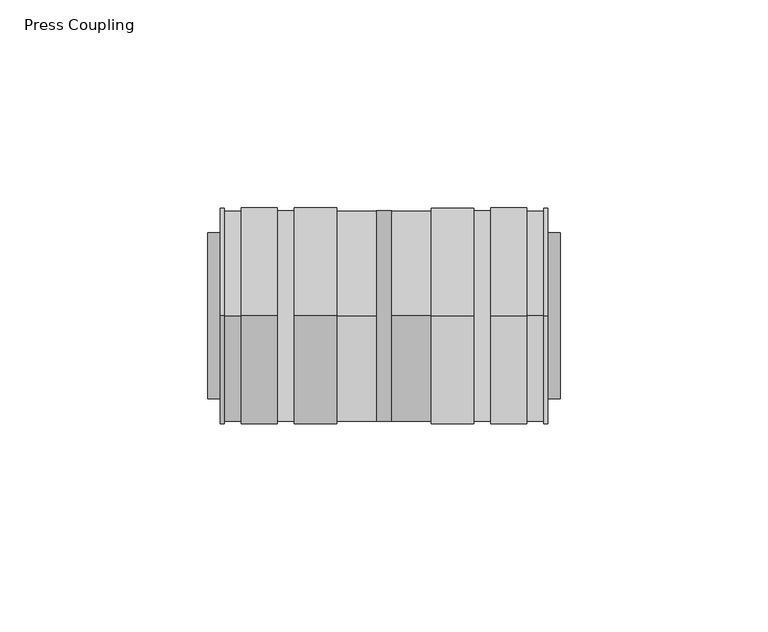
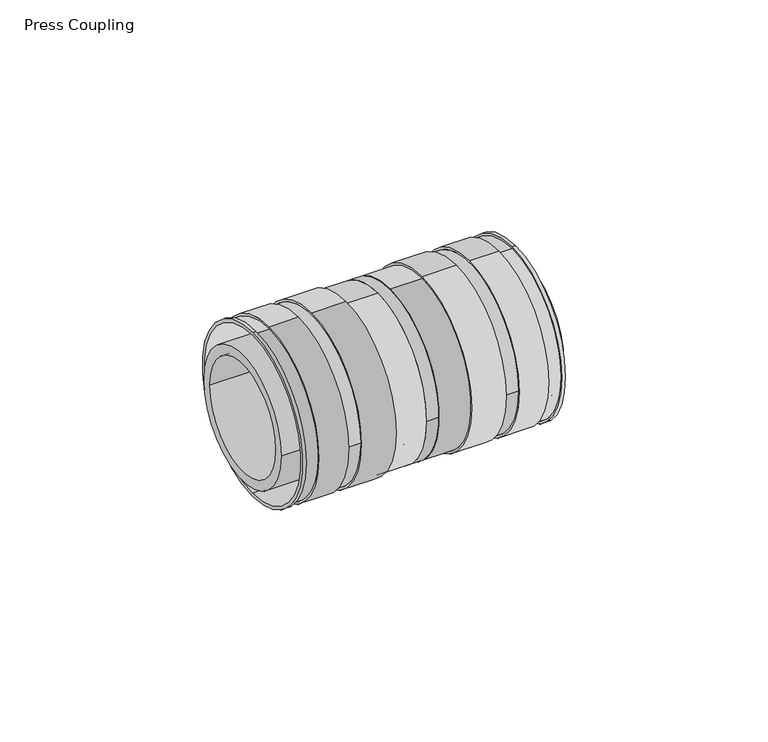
"""IFC4 building model written with IfcOpenShell, lengths in millimetres: pipe fitting geometry, Press Coupling : Superpipe Press Coupling."""

from ifc_helpers import new_model, si_unit, point, frame, frame_2d, origin, place, context, project, spatial, polyline, circle_curve, trimmed, segment, composite_curve, outline, extrude, source, transform, mapped, element, save
from ifc_brep_helpers import plane_surface, cylinder_surface, revolved_surface, advanced_brep


def press_coupling_7d98de0b(model_context):
    return source(origin(), model_context, "Body", "SolidModel", [
        advanced_brep(
        [(81.8, 0.0, -26.0), (81.8, 0.0, 26.0), (81.8, 0.0, -25.0), (81.8, 0.0, 25.0), (44.3, 0.0, -25.3), (44.3, 0.0, 25.3), (44.3, 0.0, -25.0), (44.3, 0.0, 25.0), (80.8, 0.0, -26.0), (80.8, 0.0, 26.0), (76.8, 0.0, 26.0), (76.8, 0.0, -26.0), (68.05, 0.0, -26.0), (68.05, 26.0, 0.0), (68.05, 0.0, 26.0), (64.05, 26.0, 0.0), (64.05, 0.0, -26.0), (53.8, 0.0, -26.0), (53.8, 0.0, 26.0), (64.05, 0.0, 26.0), (68.05, -26.0, 0.0), (64.05, -26.0, 0.0), (76.8, 0.0, 25.3), (76.8, 0.0, -25.3), (80.8, 0.0, 25.3), (80.8, 0.0, -25.3), (68.05, 25.3, 0.0), (68.05, -25.3, 0.0), (64.05, 25.3, 0.0), (64.05, -25.3, 0.0), (53.8, 0.0, -25.3), (53.8, 0.0, 25.3)],
        [
            (0, 1, circle_curve(frame((81.8, 0.0, 0.0), z_axis=(1.0, 0.0, 0.0), x_axis=(0.0, 0.0, 1.0)), 26.0)),
            (1, 0, circle_curve(frame((81.8, 0.0, 0.0), z_axis=(1.0, 0.0, 0.0), x_axis=(0.0, 0.0, 1.0)), 26.0)),
            (2, 3, circle_curve(frame((81.8, 0.0, 0.0), z_axis=(-1.0, 0.0, 0.0), x_axis=(0.0, 0.0, 1.0)), 25.0)),
            (3, 2, circle_curve(frame((81.8, 0.0, 0.0), z_axis=(-1.0, 0.0, 0.0), x_axis=(0.0, 0.0, 1.0)), 25.0)),
            (4, 5, circle_curve(frame((44.3, 0.0, 0.0), z_axis=(-1.0, 0.0, 0.0), x_axis=(0.0, 0.0, 1.0)), 25.3)),
            (5, 4, circle_curve(frame((44.3, 0.0, 0.0), z_axis=(-1.0, 0.0, 0.0), x_axis=(0.0, 0.0, 1.0)), 25.3)),
            (6, 7, circle_curve(frame((44.3, 0.0, 0.0), z_axis=(1.0, 0.0, 0.0), x_axis=(0.0, 0.0, 1.0)), 25.0)),
            (7, 6, circle_curve(frame((44.3, 0.0, 0.0), z_axis=(1.0, 0.0, 0.0), x_axis=(0.0, 0.0, 1.0)), 25.0)),
            (0, 8),
            (8, 9, circle_curve(frame((80.8, 0.0, 0.0), z_axis=(1.0, 0.0, 0.0), x_axis=(0.0, 0.0, 1.0)), 26.0)),
            (9, 1),
            (10, 11, circle_curve(frame((76.8, 0.0, 0.0), z_axis=(-1.0, 0.0, 0.0), x_axis=(0.0, 0.0, 1.0)), 26.0)),
            (11, 12),
            (12, 13, circle_curve(frame((68.05, 0.0, 0.0), z_axis=(1.0, 0.0, 0.0), x_axis=(0.0, 0.0, 1.0)), 26.0)),
            (13, 14, circle_curve(frame((68.05, 0.0, 0.0), z_axis=(1.0, 0.0, 0.0), x_axis=(0.0, 0.0, 1.0)), 26.0)),
            (14, 10),
            (15, 16, circle_curve(frame((64.05, 0.0, 0.0), z_axis=(-1.0, 0.0, 0.0), x_axis=(0.0, 0.0, 1.0)), 26.0)),
            (16, 17),
            (17, 18, circle_curve(frame((53.8, 0.0, 0.0), z_axis=(1.0, 0.0, 0.0), x_axis=(0.0, 0.0, 1.0)), 26.0)),
            (18, 19),
            (19, 15, circle_curve(frame((64.05, 0.0, 0.0), z_axis=(-1.0, 0.0, 0.0), x_axis=(0.0, 0.0, 1.0)), 26.0)),
            (9, 8, circle_curve(frame((80.8, 0.0, 0.0), z_axis=(1.0, 0.0, 0.0), x_axis=(0.0, 0.0, 1.0)), 26.0)),
            (11, 10, circle_curve(frame((76.8, 0.0, 0.0), z_axis=(-1.0, 0.0, 0.0), x_axis=(0.0, 0.0, 1.0)), 26.0)),
            (14, 20, circle_curve(frame((68.05, 0.0, 0.0), z_axis=(1.0, 0.0, 0.0), x_axis=(0.0, 0.0, 1.0)), 26.0)),
            (20, 12, circle_curve(frame((68.05, 0.0, 0.0), z_axis=(1.0, 0.0, 0.0), x_axis=(0.0, 0.0, 1.0)), 26.0)),
            (16, 21, circle_curve(frame((64.05, 0.0, 0.0), z_axis=(-1.0, 0.0, 0.0), x_axis=(0.0, 0.0, 1.0)), 26.0)),
            (21, 19, circle_curve(frame((64.05, 0.0, 0.0), z_axis=(-1.0, 0.0, 0.0), x_axis=(0.0, 0.0, 1.0)), 26.0)),
            (18, 17, circle_curve(frame((53.8, 0.0, 0.0), z_axis=(1.0, 0.0, 0.0), x_axis=(0.0, 0.0, 1.0)), 26.0)),
            (2, 6),
            (7, 3),
            (22, 23, circle_curve(frame((76.8, 0.0, 0.0), z_axis=(-1.0, 0.0, 0.0), x_axis=(0.0, 0.0, -1.0)), 25.3)),
            (23, 22, circle_curve(frame((76.8, 0.0, 0.0), z_axis=(-1.0, 0.0, 0.0), x_axis=(0.0, 0.0, -1.0)), 25.3)),
            (24, 25, circle_curve(frame((80.8, 0.0, 0.0), z_axis=(1.0, 0.0, 0.0), x_axis=(0.0, 0.0, -1.0)), 25.3)),
            (25, 24, circle_curve(frame((80.8, 0.0, 0.0), z_axis=(1.0, 0.0, 0.0), x_axis=(0.0, 0.0, -1.0)), 25.3)),
            (23, 25),
            (24, 22),
            (26, 27, circle_curve(frame((68.05, 0.0, 0.0), z_axis=(1.0, 0.0, 0.0), x_axis=(0.0, -1.0, 0.0)), 25.3)),
            (27, 26, circle_curve(frame((68.05, 0.0, 0.0), z_axis=(1.0, 0.0, 0.0), x_axis=(0.0, -1.0, 0.0)), 25.3)),
            (28, 29, circle_curve(frame((64.05, 0.0, 0.0), z_axis=(-1.0, 0.0, 0.0), x_axis=(0.0, -1.0, 0.0)), 25.3)),
            (29, 28, circle_curve(frame((64.05, 0.0, 0.0), z_axis=(-1.0, 0.0, 0.0), x_axis=(0.0, -1.0, 0.0)), 25.3)),
            (26, 28),
            (29, 27),
            (30, 31, circle_curve(frame((53.8, 0.0, 0.0), z_axis=(1.0, 0.0, 0.0), x_axis=(0.0, 0.0, 1.0)), 25.3)),
            (31, 30, circle_curve(frame((53.8, 0.0, 0.0), z_axis=(1.0, 0.0, 0.0), x_axis=(0.0, 0.0, 1.0)), 25.3)),
            (31, 5),
            (4, 30),
        ],
        [
            plane_surface(frame((81.8, 0.0, 26.0), z_axis=(1.0, 0.0, 0.0), x_axis=(0.0, -1.0, 0.0))),
            plane_surface(frame((44.3, 0.0, 26.0), z_axis=(-1.0, 0.0, 0.0), x_axis=(0.0, 1.0, 0.0))),
            cylinder_surface(frame((44.3, 0.0, 0.0), z_axis=(1.0, 0.0, 0.0), x_axis=(0.0, 0.0, 1.0)), 26.0),
            revolved_surface(polyline([(44.3, 0.0, 25.0), (81.8, 0.0, 25.0)]), (44.3, 0.0, 0.0), (-1.0, 0.0, 0.0)),
            plane_surface(frame((76.8, 0.0, -26.0), z_axis=(1.0, 0.0, 0.0), x_axis=(0.0, -1.0, 0.0))),
            plane_surface(frame((80.8, 0.0, -26.0), z_axis=(-1.0, 0.0, 0.0), x_axis=(0.0, 1.0, 0.0))),
            cylinder_surface(frame((81.8, 0.0, 0.0), z_axis=(1.0, 0.0, 0.0), x_axis=(0.0, 0.0, -1.0)), 25.3),
            plane_surface(frame((68.05, -26.0, 0.0), z_axis=(-1.0, 0.0, 0.0), x_axis=(0.0, 0.0, -1.0))),
            plane_surface(frame((64.05, -26.0, 0.0), z_axis=(1.0, 0.0, 0.0), x_axis=(0.0, 0.0, 1.0))),
            cylinder_surface(frame((64.05, 0.0, 0.0), z_axis=(1.0, 0.0, 0.0), x_axis=(0.0, -1.0, 0.0)), 25.3),
            plane_surface(frame((53.8, 0.0, 26.0), z_axis=(-1.0, 0.0, 0.0), x_axis=(0.0, -1.0, 0.0))),
            cylinder_surface(frame((44.3, 0.0, 0.0), z_axis=(-1.0, 0.0, 0.0), x_axis=(0.0, 0.0, 1.0)), 25.3),
        ],
        [
            (0, [[1, 2], [3, 4]]),
            (1, [[5, 6], [7, 8]]),
            (2, [[-1, 9, 10, 11]]),
            (2, [[12, 13, 14, 15, 16]]),
            (2, [[17, 18, 19, 20, 21]]),
            (2, [[-2, -11, 22, -9]]),
            (2, [[23, -16, 24, 25, -13]]),
            (2, [[26, 27, -20, 28, -18]]),
            (3, [[-3, 29, -8, 30]]),
            (3, [[-4, -30, -7, -29]]),
            (4, [[-12, -23], [31, 32]]),
            (5, [[-10, -22], [33, 34]]),
            (6, [[-32, 35, -33, 36]]),
            (6, [[-31, -36, -34, -35]]),
            (7, [[-14, -25, -24, -15], [37, 38]]),
            (8, [[-17, -21, -27, -26], [39, 40]]),
            (9, [[-37, 41, -40, 42]]),
            (9, [[-38, -42, -39, -41]]),
            (10, [[-19, -28], [43, 44]]),
            (11, [[-44, 45, -5, 46]]),
            (11, [[-43, -46, -6, -45]]),
        ],
    ),
        advanced_brep(
        [(3.0, 0.0, -26.0), (3.0, 0.0, 26.0), (3.0, 0.0, -25.0), (3.0, 0.0, 25.0), (40.5, 0.0, -25.3), (40.5, 0.0, 25.3), (40.5, 0.0, -25.0), (40.5, 0.0, 25.0), (4.0, 0.0, -26.0), (4.0, 0.0, 26.0), (8.0, 0.0, 26.0), (8.0, 0.0, -26.0), (16.75, 0.0, -26.0), (16.75, -26.0, 0.0), (16.75, 0.0, 26.0), (31.0, 0.0, -26.0), (31.0, 0.0, 26.0), (20.75, 0.0, 26.0), (20.75, -26.0, 0.0), (20.75, 0.0, -26.0), (16.75, 26.0, 0.0), (20.75, 26.0, 0.0), (8.0, 0.0, 25.3), (8.0, 0.0, -25.3), (4.0, 0.0, 25.3), (4.0, 0.0, -25.3), (31.0, 0.0, -25.3), (31.0, 0.0, 25.3), (16.75, 25.3, 0.0), (16.75, -25.3, 0.0), (20.75, 25.3, 0.0), (20.75, -25.3, 0.0)],
        [
            (0, 1, circle_curve(frame((3.0, 0.0, 0.0), z_axis=(-1.0, 0.0, 0.0), x_axis=(0.0, 0.0, 1.0)), 26.0)),
            (1, 0, circle_curve(frame((3.0, 0.0, 0.0), z_axis=(-1.0, 0.0, 0.0), x_axis=(0.0, 0.0, 1.0)), 26.0)),
            (2, 3, circle_curve(frame((3.0, 0.0, 0.0), z_axis=(1.0, 0.0, 0.0), x_axis=(0.0, 0.0, 1.0)), 25.0)),
            (3, 2, circle_curve(frame((3.0, 0.0, 0.0), z_axis=(1.0, 0.0, 0.0), x_axis=(0.0, 0.0, 1.0)), 25.0)),
            (4, 5, circle_curve(frame((40.5, 0.0, 0.0), z_axis=(1.0, 0.0, 0.0), x_axis=(0.0, 0.0, 1.0)), 25.3)),
            (5, 4, circle_curve(frame((40.5, 0.0, 0.0), z_axis=(1.0, 0.0, 0.0), x_axis=(0.0, 0.0, 1.0)), 25.3)),
            (6, 7, circle_curve(frame((40.5, 0.0, 0.0), z_axis=(-1.0, 0.0, 0.0), x_axis=(0.0, 0.0, 1.0)), 25.0)),
            (7, 6, circle_curve(frame((40.5, 0.0, 0.0), z_axis=(-1.0, 0.0, 0.0), x_axis=(0.0, 0.0, 1.0)), 25.0)),
            (0, 8),
            (8, 9, circle_curve(frame((4.0, 0.0, 0.0), z_axis=(-1.0, 0.0, 0.0), x_axis=(0.0, 0.0, 1.0)), 26.0)),
            (9, 1),
            (10, 11, circle_curve(frame((8.0, 0.0, 0.0), z_axis=(1.0, 0.0, 0.0), x_axis=(0.0, 0.0, 1.0)), 26.0)),
            (11, 12),
            (12, 13, circle_curve(frame((16.75, 0.0, 0.0), z_axis=(-1.0, 0.0, 0.0), x_axis=(0.0, 0.0, 1.0)), 26.0)),
            (13, 14, circle_curve(frame((16.75, 0.0, 0.0), z_axis=(-1.0, 0.0, 0.0), x_axis=(0.0, 0.0, 1.0)), 26.0)),
            (14, 10),
            (15, 16, circle_curve(frame((31.0, 0.0, 0.0), z_axis=(-1.0, 0.0, 0.0), x_axis=(0.0, 0.0, 1.0)), 26.0)),
            (16, 17),
            (17, 18, circle_curve(frame((20.75, 0.0, 0.0), z_axis=(1.0, 0.0, 0.0), x_axis=(0.0, 0.0, 1.0)), 26.0)),
            (18, 19, circle_curve(frame((20.75, 0.0, 0.0), z_axis=(1.0, 0.0, 0.0), x_axis=(0.0, 0.0, 1.0)), 26.0)),
            (19, 15),
            (9, 8, circle_curve(frame((4.0, 0.0, 0.0), z_axis=(-1.0, 0.0, 0.0), x_axis=(0.0, 0.0, 1.0)), 26.0)),
            (11, 10, circle_curve(frame((8.0, 0.0, 0.0), z_axis=(1.0, 0.0, 0.0), x_axis=(0.0, 0.0, 1.0)), 26.0)),
            (14, 20, circle_curve(frame((16.75, 0.0, 0.0), z_axis=(-1.0, 0.0, 0.0), x_axis=(0.0, 0.0, 1.0)), 26.0)),
            (20, 12, circle_curve(frame((16.75, 0.0, 0.0), z_axis=(-1.0, 0.0, 0.0), x_axis=(0.0, 0.0, 1.0)), 26.0)),
            (16, 15, circle_curve(frame((31.0, 0.0, 0.0), z_axis=(-1.0, 0.0, 0.0), x_axis=(0.0, 0.0, 1.0)), 26.0)),
            (19, 21, circle_curve(frame((20.75, 0.0, 0.0), z_axis=(1.0, 0.0, 0.0), x_axis=(0.0, 0.0, 1.0)), 26.0)),
            (21, 17, circle_curve(frame((20.75, 0.0, 0.0), z_axis=(1.0, 0.0, 0.0), x_axis=(0.0, 0.0, 1.0)), 26.0)),
            (2, 6),
            (7, 3),
            (22, 23, circle_curve(frame((8.0, 0.0, 0.0), z_axis=(1.0, 0.0, 0.0), x_axis=(0.0, 0.0, -1.0)), 25.3)),
            (23, 22, circle_curve(frame((8.0, 0.0, 0.0), z_axis=(1.0, 0.0, 0.0), x_axis=(0.0, 0.0, -1.0)), 25.3)),
            (24, 25, circle_curve(frame((4.0, 0.0, 0.0), z_axis=(-1.0, 0.0, 0.0), x_axis=(0.0, 0.0, -1.0)), 25.3)),
            (25, 24, circle_curve(frame((4.0, 0.0, 0.0), z_axis=(-1.0, 0.0, 0.0), x_axis=(0.0, 0.0, -1.0)), 25.3)),
            (23, 25),
            (24, 22),
            (26, 27, circle_curve(frame((31.0, 0.0, 0.0), z_axis=(-1.0, 0.0, 0.0), x_axis=(0.0, 0.0, 1.0)), 25.3)),
            (27, 26, circle_curve(frame((31.0, 0.0, 0.0), z_axis=(-1.0, 0.0, 0.0), x_axis=(0.0, 0.0, 1.0)), 25.3)),
            (27, 5),
            (4, 26),
            (28, 29, circle_curve(frame((16.75, 0.0, 0.0), z_axis=(-1.0, 0.0, 0.0), x_axis=(0.0, -1.0, 0.0)), 25.3)),
            (29, 28, circle_curve(frame((16.75, 0.0, 0.0), z_axis=(-1.0, 0.0, 0.0), x_axis=(0.0, -1.0, 0.0)), 25.3)),
            (30, 31, circle_curve(frame((20.75, 0.0, 0.0), z_axis=(1.0, 0.0, 0.0), x_axis=(0.0, -1.0, 0.0)), 25.3)),
            (31, 30, circle_curve(frame((20.75, 0.0, 0.0), z_axis=(1.0, 0.0, 0.0), x_axis=(0.0, -1.0, 0.0)), 25.3)),
            (29, 31),
            (30, 28),
        ],
        [
            plane_surface(frame((3.0, 0.0, 26.0), z_axis=(-1.0, 0.0, 0.0), x_axis=(0.0, 1.0, 0.0))),
            plane_surface(frame((40.5, 0.0, 26.0), z_axis=(1.0, 0.0, 0.0), x_axis=(0.0, -1.0, 0.0))),
            cylinder_surface(frame((40.5, 0.0, 0.0), z_axis=(-1.0, 0.0, 0.0), x_axis=(0.0, 0.0, 1.0)), 26.0),
            revolved_surface(polyline([(40.5, 0.0, 25.0), (3.0, 0.0, 25.0)]), (40.5, 0.0, 0.0), (1.0, 0.0, 0.0)),
            plane_surface(frame((8.0, 0.0, -26.0), z_axis=(-1.0, 0.0, 0.0), x_axis=(0.0, 1.0, 0.0))),
            plane_surface(frame((4.0, 0.0, -26.0), z_axis=(1.0, 0.0, 0.0), x_axis=(0.0, -1.0, 0.0))),
            cylinder_surface(frame((3.0, 0.0, 0.0), z_axis=(-1.0, 0.0, 0.0), x_axis=(0.0, 0.0, -1.0)), 25.3),
            plane_surface(frame((31.0, 0.0, 26.0), z_axis=(1.0, 0.0, 0.0), x_axis=(0.0, 1.0, 0.0))),
            cylinder_surface(frame((40.5, 0.0, 0.0), z_axis=(1.0, 0.0, 0.0), x_axis=(0.0, 0.0, 1.0)), 25.3),
            plane_surface(frame((16.75, -26.0, 0.0), z_axis=(1.0, 0.0, 0.0), x_axis=(0.0, 0.0, 1.0))),
            plane_surface(frame((20.75, -26.0, 0.0), z_axis=(-1.0, 0.0, 0.0), x_axis=(0.0, 0.0, -1.0))),
            cylinder_surface(frame((20.75, 0.0, 0.0), z_axis=(1.0, 0.0, 0.0), x_axis=(0.0, -1.0, 0.0)), 25.3),
        ],
        [
            (0, [[1, 2], [3, 4]]),
            (1, [[5, 6], [7, 8]]),
            (2, [[-1, 9, 10, 11]]),
            (2, [[12, 13, 14, 15, 16]]),
            (2, [[17, 18, 19, 20, 21]]),
            (2, [[-2, -11, 22, -9]]),
            (2, [[23, -16, 24, 25, -13]]),
            (2, [[26, -21, 27, 28, -18]]),
            (3, [[-3, 29, -8, 30]]),
            (3, [[-4, -30, -7, -29]]),
            (4, [[-12, -23], [31, 32]]),
            (5, [[-10, -22], [33, 34]]),
            (6, [[-32, 35, -33, 36]]),
            (6, [[-31, -36, -34, -35]]),
            (7, [[-17, -26], [37, 38]]),
            (8, [[-38, 39, -5, 40]]),
            (8, [[-37, -40, -6, -39]]),
            (9, [[-14, -25, -24, -15], [41, 42]]),
            (10, [[-20, -19, -28, -27], [43, 44]]),
            (11, [[-42, 45, -43, 46]]),
            (11, [[-41, -46, -44, -45]]),
        ],
    ),
        extrude(outline(composite_curve([segment(trimmed(circle_curve(frame_2d((-0.000673, 0.0)), 20.0), [point((-20.000673, 0.0))], [point((19.999327, 0.0))], False, "CARTESIAN"), True, "CONTINUOUS"), segment(trimmed(circle_curve(frame_2d((-0.000673, 0.0)), 20.0), [point((19.999327, 0.0))], [point((-20.000673, 0.0))], False, "CARTESIAN"), True, "CONTINUOUS")], self_intersect=False), holes=[composite_curve([segment(trimmed(circle_curve(frame_2d((-0.000673, 0.0)), 17.0), [point((16.999327, 0.0))], [point((-17.000673, 0.0))], True, "CARTESIAN"), True, "CONTINUOUS"), segment(trimmed(circle_curve(frame_2d((-0.000673, 0.0)), 17.0), [point((-17.000673, 0.0))], [point((16.999327, 0.0))], True, "CARTESIAN"), True, "CONTINUOUS")], self_intersect=False)]), frame((44.3, 0.0, 0.0), z_axis=(1.0, 0.0, 0.0), x_axis=(0.0, 1.0, 0.0)), (0.0, 0.0, 1.0), 40.5),
        extrude(outline(composite_curve([segment(trimmed(circle_curve(frame_2d((-0.000673, 0.0)), 20.0), [point((-20.000673, 0.0))], [point((19.999327, 0.0))], False, "CARTESIAN"), True, "CONTINUOUS"), segment(trimmed(circle_curve(frame_2d((-0.000673, 0.0)), 20.0), [point((19.999327, 0.0))], [point((-20.000673, 0.0))], False, "CARTESIAN"), True, "CONTINUOUS")], self_intersect=False), holes=[composite_curve([segment(trimmed(circle_curve(frame_2d((-0.000673, 0.0)), 17.0), [point((16.999327, 0.0))], [point((-17.000673, 0.0))], True, "CARTESIAN"), True, "CONTINUOUS"), segment(trimmed(circle_curve(frame_2d((-0.000673, 0.0)), 17.0), [point((-17.000673, 0.0))], [point((16.999327, 0.0))], True, "CARTESIAN"), True, "CONTINUOUS")], self_intersect=False)]), frame((0.0, 0.0, 0.0), z_axis=(1.0, 0.0, 0.0), x_axis=(0.0, 1.0, 0.0)), (0.0, 0.0, 1.0), 40.5),
        extrude(outline(composite_curve([segment(trimmed(circle_curve(frame_2d((-0.000673, 0.0)), 25.3), [point((-25.300673, 0.0))], [point((25.299327, 0.0))], False, "CARTESIAN"), True, "CONTINUOUS"), segment(trimmed(circle_curve(frame_2d((-0.000673, 0.0)), 25.3), [point((25.299327, 0.0))], [point((-25.300673, 0.0))], False, "CARTESIAN"), True, "CONTINUOUS")], self_intersect=False), holes=[composite_curve([segment(trimmed(circle_curve(frame_2d((-0.000673, 0.0)), 17.0), [point((16.999327, 0.0))], [point((-17.000673, 0.0))], True, "CARTESIAN"), True, "CONTINUOUS"), segment(trimmed(circle_curve(frame_2d((-0.000673, 0.0)), 17.0), [point((-17.000673, 0.0))], [point((16.999327, 0.0))], True, "CARTESIAN"), True, "CONTINUOUS")], self_intersect=False)]), frame((40.5, 0.0, 0.0), z_axis=(1.0, 0.0, 0.0), x_axis=(0.0, 1.0, 0.0)), (0.0, 0.0, 1.0), 3.8),
    ])


if __name__ == "__main__":
    model = new_model("IFC4")
    model_context = context("Model", 3, world=origin())
    ifc_project = project(units=[si_unit("LENGTHUNIT", "METRE", prefix="MILLI")], contexts=[model_context])
    site = spatial("IfcSite", under=ifc_project)
    building = spatial("IfcBuilding", under=site)
    placement = place(None, origin())
    press_coupling_shape = press_coupling_7d98de0b(model_context)
    element("IfcPipeFitting", 1, ObjectType="Press Coupling : Superpipe Press Coupling", at=placement, inside=building, context=model_context, shape_type="MappedRepresentation", body=[
        mapped(press_coupling_shape, transform((0.0, 0.0, 0.0), x_axis=(1.0, 0.0, 0.0), y_axis=(0.0, 1.0, 0.0), z_axis=(0.0, 0.0, 1.0))),
    ])
    save(model, "model.ifc")
